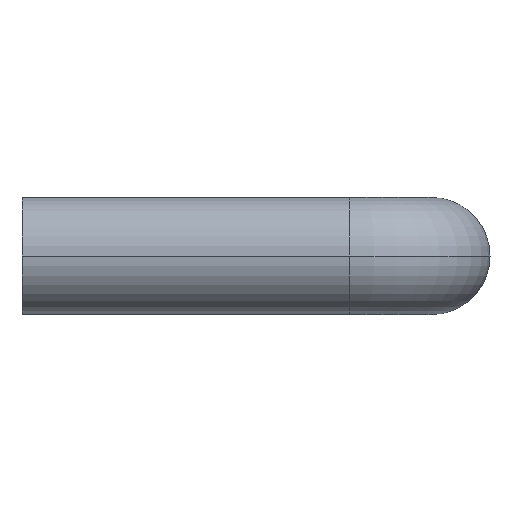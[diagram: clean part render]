
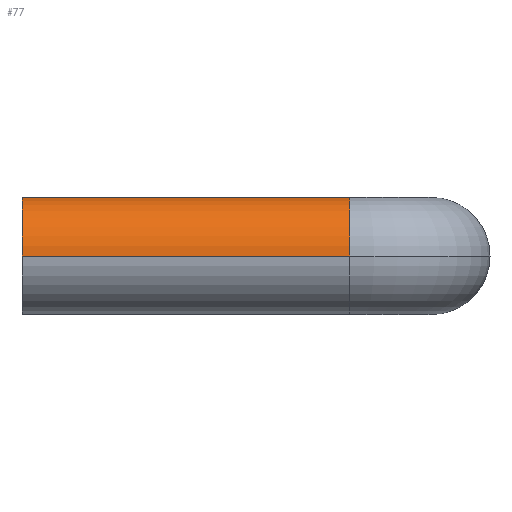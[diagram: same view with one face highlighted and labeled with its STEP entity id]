
A CAD part, left-side view. The second image highlights one B-rep face of the part: STEP entity #77.
In plain terms, the highlighted cylindrical face has radius 5 mm (diameter 10 mm), a partial arc.
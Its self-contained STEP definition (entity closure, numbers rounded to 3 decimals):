
#77 = ADVANCED_FACE( '', ( #98 ), #99, .T. );
#98 = FACE_OUTER_BOUND( '', #136, .T. );
#99 = CYLINDRICAL_SURFACE( '', #137, 5. );
#136 = EDGE_LOOP( '', ( #184, #185, #186, #187 ) );
#137 = AXIS2_PLACEMENT_3D( '', #188, #189, #190 );
#184 = ORIENTED_EDGE( '', *, *, #300, .F. );
#185 = ORIENTED_EDGE( '', *, *, #301, .F. );
#186 = ORIENTED_EDGE( '', *, *, #302, .F. );
#187 = ORIENTED_EDGE( '', *, *, #295, .T. );
#188 = CARTESIAN_POINT( '', ( 0., 0., 0. ) );
#189 = DIRECTION( '', ( 0., 1., 0. ) );
#190 = DIRECTION( '', ( 1., 0., 0. ) );
#295 = EDGE_CURVE( '', #327, #331, #333, .T. );
#300 = EDGE_CURVE( '', #342, #331, #343, .T. );
#301 = EDGE_CURVE( '', #344, #342, #345, .T. );
#302 = EDGE_CURVE( '', #327, #344, #346, .T. );
#327 = VERTEX_POINT( '', #381 );
#331 = VERTEX_POINT( '', #385 );
#333 = CIRCLE( '', #387, 5. );
#342 = VERTEX_POINT( '', #396 );
#343 = LINE( '', #397, #398 );
#344 = VERTEX_POINT( '', #399 );
#345 = CIRCLE( '', #400, 5. );
#346 = LINE( '', #401, #402 );
#381 = CARTESIAN_POINT( '', ( -5., -28., 0. ) );
#385 = CARTESIAN_POINT( '', ( 5., -28., 0. ) );
#387 = AXIS2_PLACEMENT_3D( '', #453, #454, #455 );
#396 = CARTESIAN_POINT( '', ( 5., 0., 0. ) );
#397 = CARTESIAN_POINT( '', ( 5., 0., 0. ) );
#398 = VECTOR( '', #468, 1. );
#399 = CARTESIAN_POINT( '', ( -5., 0., 0. ) );
#400 = AXIS2_PLACEMENT_3D( '', #469, #470, #471 );
#401 = CARTESIAN_POINT( '', ( -5., 0., 0. ) );
#402 = VECTOR( '', #472, 1. );
#453 = CARTESIAN_POINT( '', ( 0., -28., 0. ) );
#454 = DIRECTION( '', ( 0., 1., 0. ) );
#455 = DIRECTION( '', ( 1., 0., 0. ) );
#468 = DIRECTION( '', ( 0., -1., 0. ) );
#469 = CARTESIAN_POINT( '', ( 0., 0., 0. ) );
#470 = DIRECTION( '', ( 0., 1., 0. ) );
#471 = DIRECTION( '', ( 1., 0., 0. ) );
#472 = DIRECTION( '', ( 0., 1., 0. ) );
